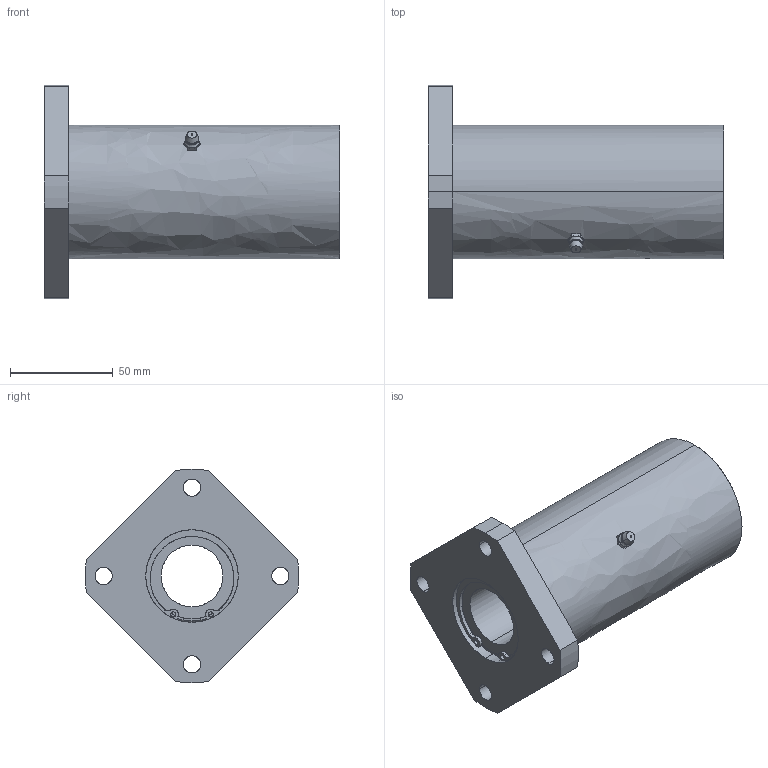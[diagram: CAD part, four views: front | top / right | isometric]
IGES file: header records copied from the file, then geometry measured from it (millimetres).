
Global section: file name: No Iges File Name specified; native system: AutoDesk Inventor R10; preprocessor: AutoDesk Inventor Iges Exporter R10; author: No Author specified; organization: No Organization specified; date: 20101214.140231; units: millimetre
Bounding box: 144 x 103.86 x 104 mm (x, y, z)
Surface area: 66052.3 mm2 (no closed solid volume)
Topology: 0 solids, 0 shells, 155 faces, 1099 edges, 1097 vertices
Faces by surface type: bspline 155
